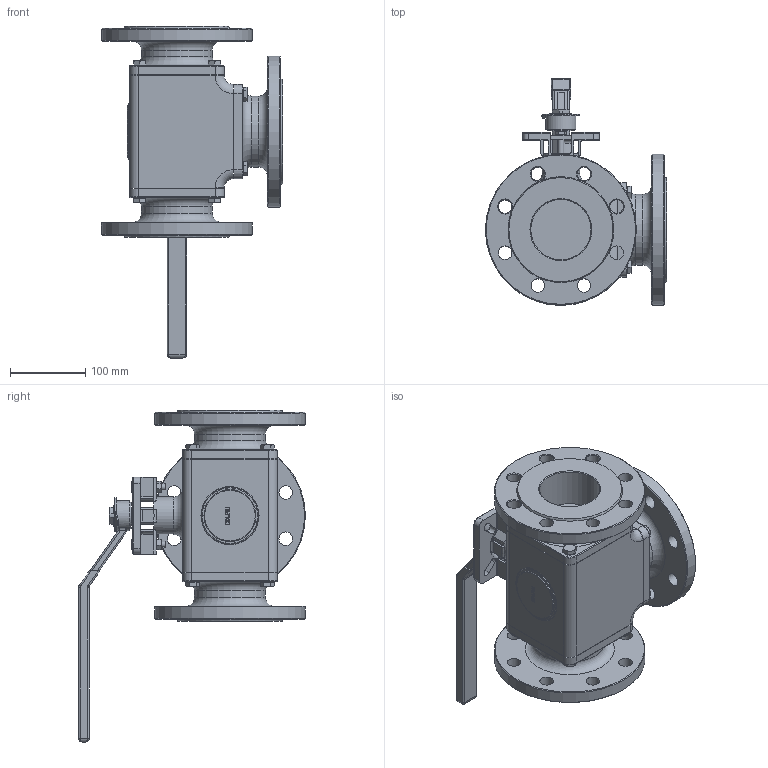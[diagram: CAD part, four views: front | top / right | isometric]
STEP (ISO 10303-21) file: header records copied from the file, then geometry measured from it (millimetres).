
FILE_DESCRIPTION(('STEP AP242'), '1');
FILE_NAME('BV3232P(4pc)-FP-3WT-F-ISO-H Êðàí øàðîâîé DN.ru Äó80 Ðó16', '', ('UNSPECIFIED'), ('UNSPECIFIED'), 'C3D Converter', 'C3D Toolkit', '');
FILE_SCHEMA(('AP242_MANAGED_MODEL_BASED_3D_ENGINEERING_MIM_LF { 1 0 10303 442 1 1 4 }'));
Length unit declared in the file: millimetre
Products named in the file (1): BV3232P(4pc)-FP-3WT-F-ISO-H
Bounding box: 240 x 300.62 x 440 mm (x, y, z)
Volume: 5002707.8 mm3; surface area: 544406.1 mm2
Topology: 1 solids, 14 shells, 921 faces, 2264 edges, 1410 vertices
Faces by surface type: plane 459, cylinder 223, cone 134, bspline 58, torus 47
Full cylindrical faces by diameter (mm): 1.336 x1, 1.364 x1, 2 x1, 8 x4, 9 x2, 10 x24, 11 x12, 13 x2, 16 x12, 18 x24, 30 x3, 35 x1, 40 x1, 50 x1, 69 x1, 80 x3, 94 x3, 200 x3
Entity records: 45815 total; most frequent: CARTESIAN_POINT 20437, ORIENTED_EDGE 4246, DIRECTION 4168, EDGE_CURVE 2123, AXIS2_PLACEMENT_3D 1599, VERTEX_POINT 1410, EDGE_LOOP 1217, FACE_BOUND 1004
